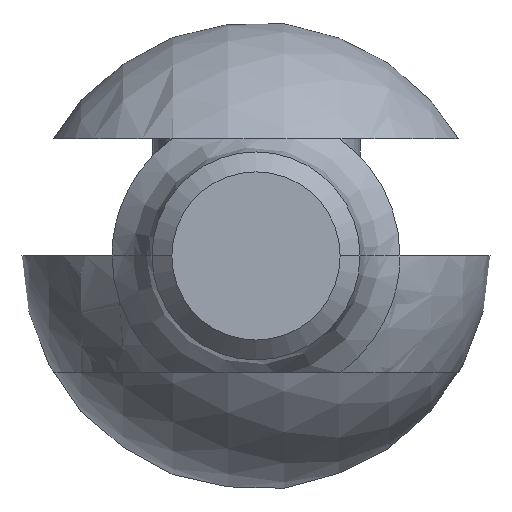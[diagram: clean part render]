
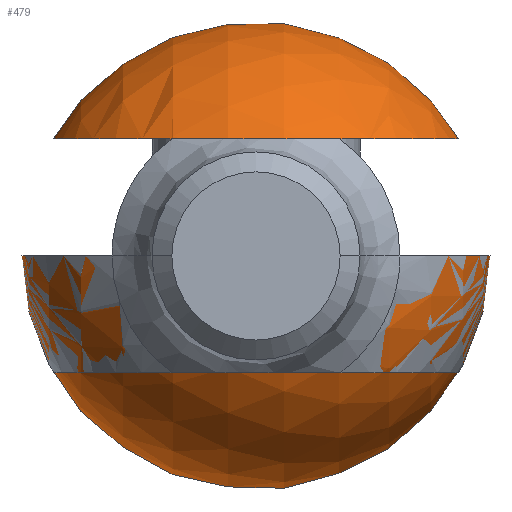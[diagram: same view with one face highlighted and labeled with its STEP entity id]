
A CAD part, front view. The second image highlights one B-rep face of the part: STEP entity #479.
In plain terms, the highlighted spherical face has radius 9 mm.
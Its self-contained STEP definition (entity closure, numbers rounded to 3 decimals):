
#147=CARTESIAN_POINT('',(0.,0.,4.5));
#148=DIRECTION('',(0.,0.,1.));
#149=DIRECTION('',(0.414,-0.91,0.));
#150=AXIS2_PLACEMENT_3D('',#147,#148,#149);
#156=CARTESIAN_POINT('',(5.538,-7.094,
0.));
#157=CARTESIAN_POINT('',(5.538,-7.094,0.146));
#158=CARTESIAN_POINT('',(5.527,-7.094,0.448));
#159=CARTESIAN_POINT('',(5.467,-7.094,0.936));
#160=CARTESIAN_POINT('',(5.351,-7.094,1.467));
#161=CARTESIAN_POINT('',(5.161,-7.094,2.043));
#162=CARTESIAN_POINT('',(4.874,-7.094,2.664));
#163=CARTESIAN_POINT('',(4.463,-7.094,3.313));
#164=CARTESIAN_POINT('',(3.913,-7.094,3.951));
#165=CARTESIAN_POINT('',(3.471,-7.094,4.326));
#166=CARTESIAN_POINT('',(3.229,-7.094,4.5));
#187=CARTESIAN_POINT('',(-3.229,-7.094,4.5));
#188=CARTESIAN_POINT('',(-3.467,-7.094,4.329));
#189=CARTESIAN_POINT('',(-3.903,-7.094,3.96));
#190=CARTESIAN_POINT('',(-4.453,-7.094,3.327));
#191=CARTESIAN_POINT('',(-4.867,-7.094,2.677));
#192=CARTESIAN_POINT('',(-5.157,-7.094,2.054));
#193=CARTESIAN_POINT('',(-5.349,-7.094,1.476));
#194=CARTESIAN_POINT('',(-5.466,-7.094,
0.943));
#195=CARTESIAN_POINT('',(-5.527,-7.094,
0.453));
#196=CARTESIAN_POINT('',(-5.538,-7.094,
0.148));
#197=CARTESIAN_POINT('',(-5.538,-7.094,
0.));
#298=CARTESIAN_POINT('',(0.,0.,0.));
#299=DIRECTION('',(0.,0.,-1.));
#300=DIRECTION('',(1.,0.,0.));
#301=AXIS2_PLACEMENT_3D('',#298,#299,#300);
#306=CARTESIAN_POINT('',(0.,0.,0.));
#307=DIRECTION('',(0.,0.,1.));
#308=DIRECTION('',(1.,0.,0.));
#309=AXIS2_PLACEMENT_3D('',#306,#307,#308);
#314=CARTESIAN_POINT('',(0.,0.,0.));
#315=DIRECTION('',(0.,0.,-1.));
#316=DIRECTION('',(-0.615,-0.788,0.));
#317=AXIS2_PLACEMENT_3D('',#314,#315,#316);
#428=CARTESIAN_POINT('',(9.,0.,0.));
#429=CARTESIAN_POINT('',(-9.,0.,0.));
#430=VERTEX_POINT('',#428);
#431=VERTEX_POINT('',#429);
#436=CARTESIAN_POINT('',(5.538,-7.094,0.));
#437=VERTEX_POINT('',#436);
#438=CARTESIAN_POINT('',(-5.538,-7.094,0.));
#439=VERTEX_POINT('',#438);
#442=VERTEX_POINT('',#166);
#443=VERTEX_POINT('',#187);
#460=CARTESIAN_POINT('',(0.,0.,0.));
#461=DIRECTION('',(1.,0.,0.));
#462=DIRECTION('',(0.,-1.,0.));
#463=AXIS2_PLACEMENT_3D('',#460,#461,#462);
#464=SPHERICAL_SURFACE('',#463,9.);
#466=ORIENTED_EDGE('',*,*,#465,.T.);
#468=ORIENTED_EDGE('',*,*,#467,.T.);
#470=ORIENTED_EDGE('',*,*,#469,.T.);
#472=ORIENTED_EDGE('',*,*,#471,.T.);
#474=ORIENTED_EDGE('',*,*,#473,.F.);
#476=ORIENTED_EDGE('',*,*,#475,.T.);
#477=EDGE_LOOP('',(#466,#468,#470,#472,#474,#476));
#478=FACE_OUTER_BOUND('',#477,.F.);
#151=CIRCLE('',#150,7.794);
#167=B_SPLINE_CURVE_WITH_KNOTS('',3,(#156,#157,#158,#159,#160,#161,#162,#163,
#164,#165,#166),.UNSPECIFIED.,.F.,.F.,(4,1,1,1,1,1,1,1,4),(0.,0.125,0.25,
0.375,0.5,0.625,0.75,0.875,1.),.UNSPECIFIED.);
#198=B_SPLINE_CURVE_WITH_KNOTS('',3,(#187,#188,#189,#190,#191,#192,#193,#194,
#195,#196,#197),.UNSPECIFIED.,.F.,.F.,(4,1,1,1,1,1,1,1,4),(0.,0.125,0.25,
0.375,0.5,0.625,0.75,0.875,1.),.UNSPECIFIED.);
#302=CIRCLE('',#301,9.);
#310=CIRCLE('',#309,9.);
#318=CIRCLE('',#317,9.);
#465=EDGE_CURVE('',#437,#442,#167,.T.);
#467=EDGE_CURVE('',#442,#443,#151,.T.);
#469=EDGE_CURVE('',#443,#439,#198,.T.);
#471=EDGE_CURVE('',#439,#431,#318,.T.);
#473=EDGE_CURVE('',#430,#431,#310,.T.);
#475=EDGE_CURVE('',#430,#437,#302,.T.);
#479=ADVANCED_FACE('',(#478),#464,.T.);
